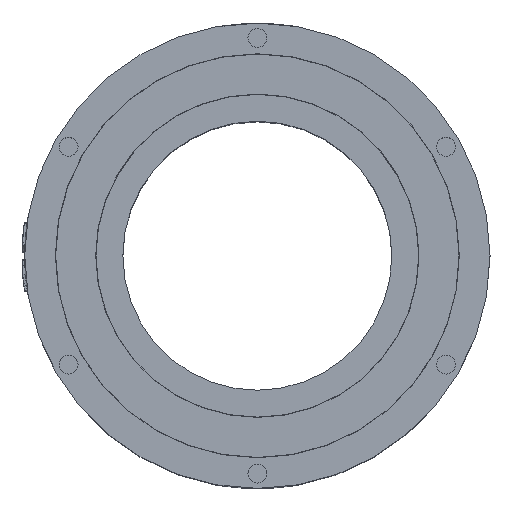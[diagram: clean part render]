
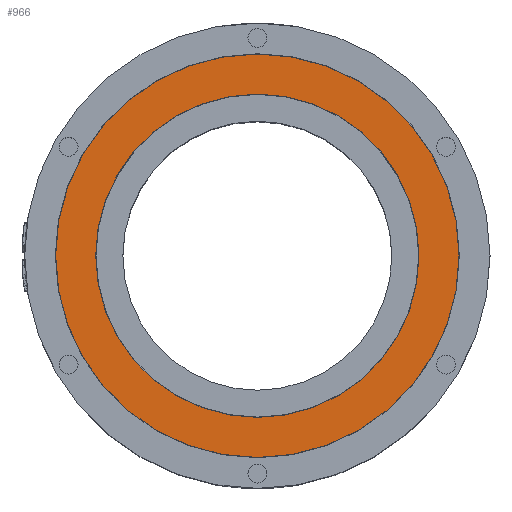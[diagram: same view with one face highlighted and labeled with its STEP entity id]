
A CAD part, top view. The second image highlights one B-rep face of the part: STEP entity #966.
In plain terms, the highlighted planar face has unit normal (0, 0, 1).
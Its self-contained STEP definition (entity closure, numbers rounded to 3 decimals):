
#218=FACE_BOUND('',#1951,.T.);
#219=FACE_BOUND('',#1952,.T.);
#448=CIRCLE('',#7460,75.);
#449=CIRCLE('',#7462,60.1);
#633=PLANE('',#7463);
#966=ADVANCED_FACE('',(#218,#219),#633,.T.);
#1951=EDGE_LOOP('',(#4092));
#1952=EDGE_LOOP('',(#4093));
#4092=ORIENTED_EDGE('',*,*,#6106,.F.);
#4093=ORIENTED_EDGE('',*,*,#6105,.T.);
#5170=VERTEX_POINT('',#14968);
#5171=VERTEX_POINT('',#14971);
#6105=EDGE_CURVE('',#5170,#5170,#448,.T.);
#6106=EDGE_CURVE('',#5171,#5171,#449,.T.);
#7460=AXIS2_PLACEMENT_3D('',#14967,#8638,#8639);
#7462=AXIS2_PLACEMENT_3D('',#14970,#8642,#8643);
#7463=AXIS2_PLACEMENT_3D('',#14972,#8644,#8645);
#8638=DIRECTION('',(0.,0.,1.));
#8639=DIRECTION('',(1.,0.,0.));
#8642=DIRECTION('',(0.,0.,1.));
#8643=DIRECTION('',(-1.,0.,0.));
#8644=DIRECTION('',(0.,0.,1.));
#8645=DIRECTION('',(1.,0.,0.));
#14967=CARTESIAN_POINT('',(0.,0.,125.5));
#14968=CARTESIAN_POINT('',(75.,0.,125.5));
#14970=CARTESIAN_POINT('',(0.,0.,125.5));
#14971=CARTESIAN_POINT('',(-60.1,0.,125.5));
#14972=CARTESIAN_POINT('',(0.,0.,125.5));
